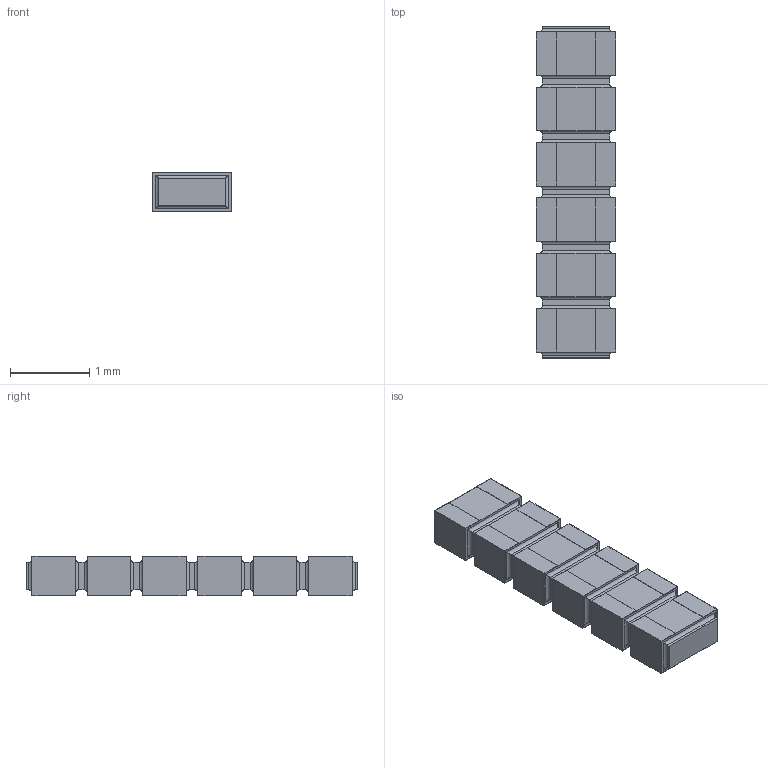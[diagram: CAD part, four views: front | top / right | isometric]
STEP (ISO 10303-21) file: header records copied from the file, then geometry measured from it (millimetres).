
FILE_DESCRIPTION(/* description */ (''),/* implementation_level */ '2;1');
FILE_NAME(/* name */ 'S:\DOCUMENT\AUTOCAD\3D_Modèles\10_3D-pour-VISHAY-COM\PRA\PRA074\PRA074-I2_à_I8\10_IGES\PRA074I6_B-or-N-or-G.stp',/* time_stamp */ '2017-12-19T14:55:29+01:00',/* author */ ('dparmentier'),/* organization */ ('unknown'),/* preprocessor_version */ 'ST-DEVELOPER v17',/* originating_system */ 'Autodesk Inventor 2018',/* authorisation */ '');
FILE_SCHEMA (('AUTOMOTIVE_DESIGN { 1 0 10303 214 3 1 1 }'));
Length unit declared in the file: millimetre
Products named in the file (1): PRA074I6_B-or-N-or-G
Bounding box: 1 x 4.2 x 0.5 mm (x, y, z)
Volume: 1.9 mm3; surface area: 27.6 mm2
Topology: 13 solids, 13 shells, 234 faces, 540 edges, 344 vertices
Faces by surface type: plane 186, cylinder 48
Entity records: 6509 total; most frequent: CARTESIAN_POINT 1119, ORIENTED_EDGE 1080, DIRECTION 1058, EDGE_CURVE 540, LINE 492, VECTOR 492, VERTEX_POINT 344, AXIS2_PLACEMENT_3D 283
